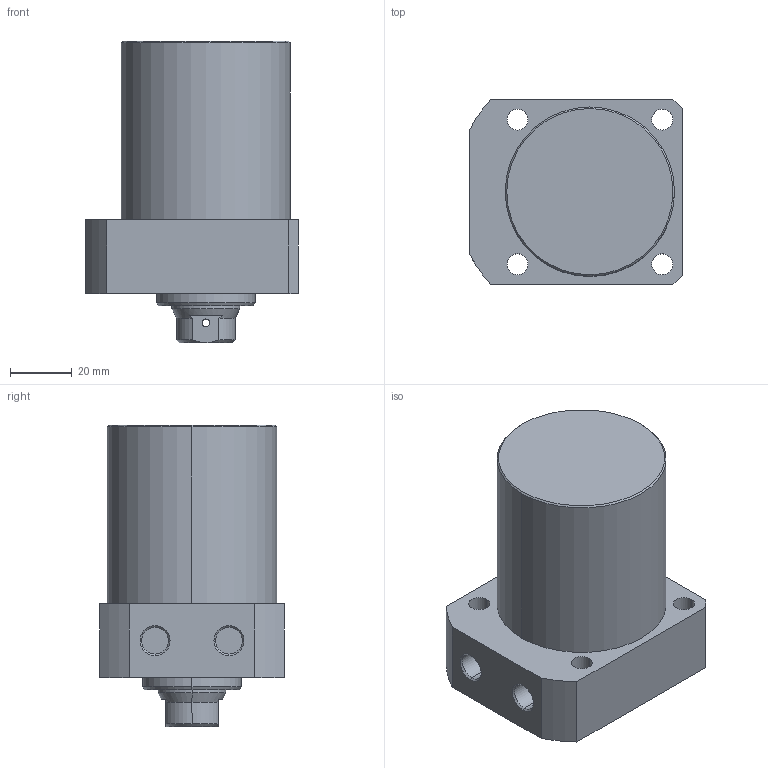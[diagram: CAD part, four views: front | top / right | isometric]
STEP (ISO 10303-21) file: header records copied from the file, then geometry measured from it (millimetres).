
FILE_DESCRIPTION (( 'STEP AP203' ), '1' );
FILE_NAME ('CLLR-055CB-045.STEP', '2019-12-19T07:49:09', ( '' ), ( '' ), 'SwSTEP 2.0', 'SolidWorks 2015', '' );
FILE_SCHEMA (( 'CONFIG_CONTROL_DESIGN' ));
Length unit declared in the file: millimetre
Products named in the file (1): CLLR-055CB-045
Bounding box: 69 x 60 x 98 mm (x, y, z)
Volume: 235395.2 mm3; surface area: 28248.2 mm2
Topology: 1 solids, 1 shells, 69 faces, 163 edges, 102 vertices
Faces by surface type: cylinder 33, plane 19, cone 17
Entity records: 2183 total; most frequent: CARTESIAN_POINT 453, DIRECTION 368, ORIENTED_EDGE 322, EDGE_CURVE 161, AXIS2_PLACEMENT_3D 149, VERTEX_POINT 102, EDGE_LOOP 89, CIRCLE 79
